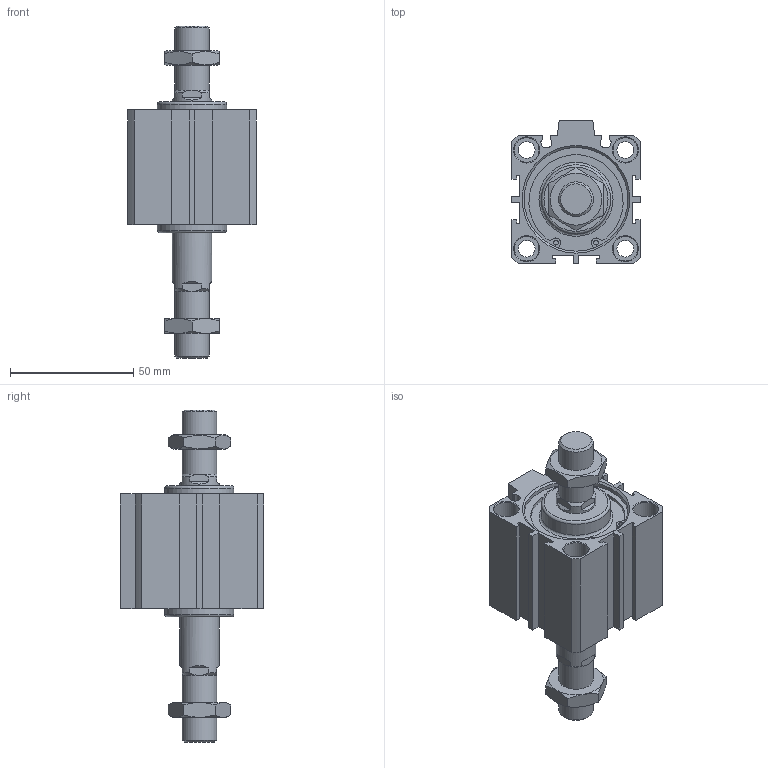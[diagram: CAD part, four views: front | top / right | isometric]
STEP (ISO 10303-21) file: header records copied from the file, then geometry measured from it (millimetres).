
FILE_DESCRIPTION((''),'2;1');
FILE_NAME('I:\3D電子目錄\氣缸\JDD\JDD-B\JDD40-B\JDD40x20-B.stp','2007-02-09T16:53:54',('662F206'),(''),'Autodesk Inventor 10','Autodesk Inventor 10','');
FILE_SCHEMA(('AUTOMOTIVE_DESIGN { 1 0 10303 214 1 1 1 1 }'));
Length unit declared in the file: millimetre
Products named in the file (3): JDD40-B; R 形環 42
Assembly tree (3 placements, depth 2):
  JDD40-B
    JDD40-B
    R 形環 42  x2
Bounding box: 52 x 58 x 134.5 mm (x, y, z)
Volume: 124743 mm3; surface area: 33751.8 mm2
Topology: 3 solids, 3 shells, 206 faces, 486 edges, 312 vertices
Faces by surface type: plane 114, cylinder 50, cone 38, bspline 2, torus 2
Full cylindrical faces by diameter (mm): 1.9 x4, 2.2 x2, 6.8 x4, 10 x8, 14 x4, 16 x2, 28 x2, 42 x4, 44.5 x2
Entity records: 5343 total; most frequent: CARTESIAN_POINT 1072, DIRECTION 880, ORIENTED_EDGE 792, EDGE_CURVE 396, AXIS2_PLACEMENT_3D 338, VERTEX_POINT 284, EDGE_LOOP 284, VECTOR 204
